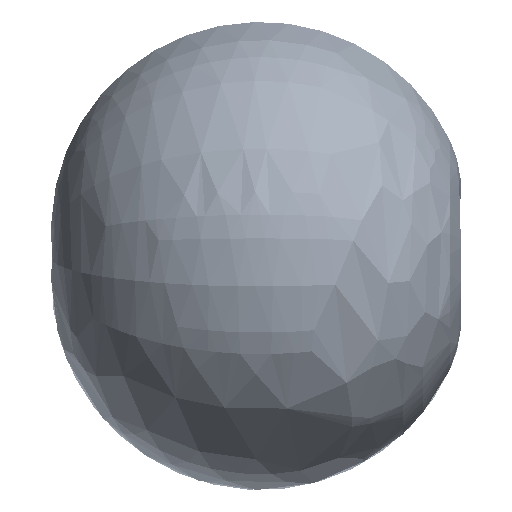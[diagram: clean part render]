
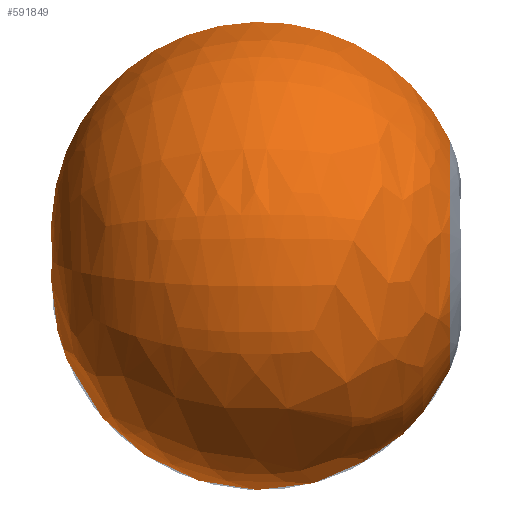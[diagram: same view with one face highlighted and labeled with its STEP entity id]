
A CAD part, left-side view. The second image highlights one B-rep face of the part: STEP entity #591849.
In plain terms, the highlighted free-form (B-spline) face has degree [3, 3] with [7, 4] control points.
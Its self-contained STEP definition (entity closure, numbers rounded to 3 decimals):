
#591699=CARTESIAN_POINT('',(-28.652,449.5,162.493));
#591700=DIRECTION('',(-0.985,0.,-0.174));
#591701=DIRECTION('',(-0.073,-0.906,0.416));
#591702=AXIS2_PLACEMENT_3D('',#591699,#591700,#591701);
#591728=CARTESIAN_POINT('',(0.,-725.039,0.));
#591729=DIRECTION('',(0.,-1.,0.));
#591730=DIRECTION('',(-0.174,0.,0.985));
#591731=AXIS2_PLACEMENT_3D('',#591728,#591729,#591730);
#591748=CARTESIAN_POINT('',(28.652,449.5,162.493));
#591749=DIRECTION('',(-0.985,0.,0.174));
#591750=DIRECTION('',(0.073,-0.906,0.416));
#591751=AXIS2_PLACEMENT_3D('',#591748,#591749,#591750);
#591773=CARTESIAN_POINT('',(-123.758,-725.039,
701.869));
#591774=CARTESIAN_POINT('',(0.,1734.914,
0.));
#591775=VERTEX_POINT('',#591773);
#591776=VERTEX_POINT('',#591774);
#591785=CARTESIAN_POINT('',(123.758,-725.039,
701.869));
#591786=VERTEX_POINT('',#591785);
#591813=CARTESIAN_POINT('',(0.,1734.914,0.));
#591814=CARTESIAN_POINT('',(-113.774,1996.54,
2034.991));
#591815=CARTESIAN_POINT('',(-142.56,7.409,
2549.877));
#591816=CARTESIAN_POINT('',(-36.022,-754.17,
644.3));
#591817=CARTESIAN_POINT('',(0.,1734.914,
0.));
#591818=CARTESIAN_POINT('',(-3966.992,1996.54,
1819.562));
#591819=CARTESIAN_POINT('',(-4970.707,7.409,
2279.942));
#591820=CARTESIAN_POINT('',(-1255.992,-754.17,
576.093));
#591821=CARTESIAN_POINT('',(0.,1734.914,
0.));
#591822=CARTESIAN_POINT('',(-3859.236,1996.54,
-2038.169));
#591823=CARTESIAN_POINT('',(-4835.687,7.409,
-2553.86));
#591824=CARTESIAN_POINT('',(-1221.875,-754.17,
-645.306));
#591825=CARTESIAN_POINT('',(0.,1734.914,0.));
#591826=CARTESIAN_POINT('',(0.,1996.54,
-2038.169));
#591827=CARTESIAN_POINT('',(0.,7.409,
-2553.86));
#591828=CARTESIAN_POINT('',(0.,-754.17,
-645.306));
#591829=CARTESIAN_POINT('',(0.,1734.914,
0.));
#591830=CARTESIAN_POINT('',(3859.236,1996.54,
-2038.169));
#591831=CARTESIAN_POINT('',(4835.687,7.409,
-2553.86));
#591832=CARTESIAN_POINT('',(1221.875,-754.17,
-645.306));
#591833=CARTESIAN_POINT('',(0.,1734.914,
0.));
#591834=CARTESIAN_POINT('',(3966.992,1996.54,
1819.562));
#591835=CARTESIAN_POINT('',(4970.707,7.409,
2279.942));
#591836=CARTESIAN_POINT('',(1255.992,-754.17,
576.093));
#591837=CARTESIAN_POINT('',(0.,1734.914,0.));
#591838=CARTESIAN_POINT('',(113.774,1996.54,
2034.991));
#591839=CARTESIAN_POINT('',(142.56,7.409,
2549.877));
#591840=CARTESIAN_POINT('',(36.022,-754.17,
644.3));
#591841=(BOUNDED_SURFACE()B_SPLINE_SURFACE(3,3,((#591813,#591814,#591815,
#591816),(#591817,#591818,#591819,#591820),(#591821,#591822,#591823,#591824),(
#591825,#591826,#591827,#591828),(#591829,#591830,#591831,#591832),(#591833,
#591834,#591835,#591836),(#591837,#591838,#591839,#591840)),.UNSPECIFIED.,.F.,
.F.,.F.)B_SPLINE_SURFACE_WITH_KNOTS((4,3,4),(4,4),(0.,1.,2.),(0.,1.),
.UNSPECIFIED.)GEOMETRIC_REPRESENTATION_ITEM()RATIONAL_B_SPLINE_SURFACE(((
3.457,1.442,1.442,3.457),(
1.217,0.507,0.507,1.217),(
1.217,0.507,0.507,1.217),(
3.457,1.442,1.442,3.457),(
1.217,0.507,0.507,1.217),(
1.217,0.507,0.507,1.217),(
3.457,1.442,1.442,3.457)))REPRESENTATION_ITEM('')SURFACE());
#591842=ORIENTED_EDGE('',*,*,#591798,.F.);
#591844=ORIENTED_EDGE('',*,*,#591843,.T.);
#591846=ORIENTED_EDGE('',*,*,#591845,.T.);
#591847=EDGE_LOOP('',(#591842,#591844,#591846));
#591848=FACE_OUTER_BOUND('',#591847,.F.);
#591849=ADVANCED_FACE('',(#591848),#591841,.T.);
#591703=CIRCLE('',#591702,1295.961);
#591732=CIRCLE('',#591731,712.697);
#591752=CIRCLE('',#591751,1295.961);
#591798=EDGE_CURVE('',#591775,#591776,#591703,.T.);
#591843=EDGE_CURVE('',#591775,#591786,#591732,.T.);
#591845=EDGE_CURVE('',#591786,#591776,#591752,.T.);
